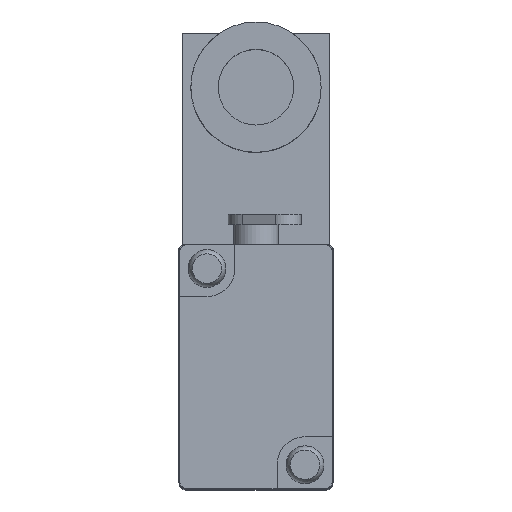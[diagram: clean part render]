
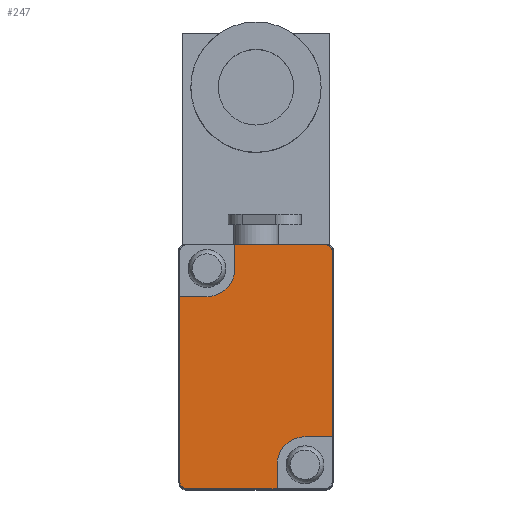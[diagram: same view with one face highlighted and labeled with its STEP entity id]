
A CAD part, top view. The second image highlights one B-rep face of the part: STEP entity #247.
In plain terms, the highlighted planar face has unit normal (0, 0, 1).
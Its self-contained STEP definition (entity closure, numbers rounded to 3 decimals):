
#247 = ADVANCED_FACE( '', ( #576 ), #577, .T. );
#576 = FACE_OUTER_BOUND( '', #979, .T. );
#577 = PLANE( '', #980 );
#979 = EDGE_LOOP( '', ( #1619, #1620, #1621, #1622, #1623, #1624, #1625, #1626, #1627, #1628, #1629, #1630 ) );
#980 = AXIS2_PLACEMENT_3D( '', #1631, #1632, #1633 );
#1619 = ORIENTED_EDGE( '', *, *, #2315, .F. );
#1620 = ORIENTED_EDGE( '', *, *, #2357, .T. );
#1621 = ORIENTED_EDGE( '', *, *, #2358, .T. );
#1622 = ORIENTED_EDGE( '', *, *, #2359, .T. );
#1623 = ORIENTED_EDGE( '', *, *, #2360, .F. );
#1624 = ORIENTED_EDGE( '', *, *, #2361, .F. );
#1625 = ORIENTED_EDGE( '', *, *, #2362, .F. );
#1626 = ORIENTED_EDGE( '', *, *, #2363, .T. );
#1627 = ORIENTED_EDGE( '', *, *, #2364, .T. );
#1628 = ORIENTED_EDGE( '', *, *, #2365, .T. );
#1629 = ORIENTED_EDGE( '', *, *, #2168, .F. );
#1630 = ORIENTED_EDGE( '', *, *, #2215, .F. );
#1631 = CARTESIAN_POINT( '', ( -9.9, -16.4, 60. ) );
#1632 = DIRECTION( '', ( 0., 0., 1. ) );
#1633 = DIRECTION( '', ( 1., 0., 0. ) );
#2168 = EDGE_CURVE( '', #2552, #2554, #2555, .T. );
#2215 = EDGE_CURVE( '', #2632, #2552, #2633, .T. );
#2315 = EDGE_CURVE( '', #2792, #2632, #2793, .T. );
#2357 = EDGE_CURVE( '', #2792, #2855, #2856, .T. );
#2358 = EDGE_CURVE( '', #2855, #2857, #2858, .T. );
#2359 = EDGE_CURVE( '', #2857, #2859, #2860, .T. );
#2360 = EDGE_CURVE( '', #2861, #2859, #2862, .T. );
#2361 = EDGE_CURVE( '', #2863, #2861, #2864, .T. );
#2362 = EDGE_CURVE( '', #2865, #2863, #2866, .T. );
#2363 = EDGE_CURVE( '', #2865, #2867, #2868, .T. );
#2364 = EDGE_CURVE( '', #2867, #2869, #2870, .T. );
#2365 = EDGE_CURVE( '', #2869, #2554, #2871, .T. );
#2552 = VERTEX_POINT( '', #3105 );
#2554 = VERTEX_POINT( '', #3108 );
#2555 = LINE( '', #3109, #3110 );
#2632 = VERTEX_POINT( '', #3204 );
#2633 = CIRCLE( '', #3205, 4. );
#2792 = VERTEX_POINT( '', #3414 );
#2793 = LINE( '', #3415, #3416 );
#2855 = VERTEX_POINT( '', #3520 );
#2856 = LINE( '', #3521, #3522 );
#2857 = VERTEX_POINT( '', #3523 );
#2858 = CIRCLE( '', #3524, 1. );
#2859 = VERTEX_POINT( '', #3525 );
#2860 = LINE( '', #3526, #3527 );
#2861 = VERTEX_POINT( '', #3528 );
#2862 = LINE( '', #3529, #3530 );
#2863 = VERTEX_POINT( '', #3531 );
#2864 = CIRCLE( '', #3532, 4. );
#2865 = VERTEX_POINT( '', #3533 );
#2866 = LINE( '', #3534, #3535 );
#2867 = VERTEX_POINT( '', #3536 );
#2868 = LINE( '', #3537, #3538 );
#2869 = VERTEX_POINT( '', #3539 );
#2870 = CIRCLE( '', #3540, 1. );
#2871 = LINE( '', #3541, #3542 );
#3105 = CARTESIAN_POINT( '', ( -3., 14., 60. ) );
#3108 = CARTESIAN_POINT( '', ( -3., 17.4, 60. ) );
#3109 = CARTESIAN_POINT( '', ( -3., 14., 60. ) );
#3110 = VECTOR( '', #3798, 1000. );
#3204 = CARTESIAN_POINT( '', ( -7., 10., 60. ) );
#3205 = AXIS2_PLACEMENT_3D( '', #3867, #3868, #3869 );
#3414 = CARTESIAN_POINT( '', ( -10.9, 10., 60. ) );
#3415 = CARTESIAN_POINT( '', ( -9.9, 10., 60. ) );
#3416 = VECTOR( '', #4009, 1000. );
#3520 = CARTESIAN_POINT( '', ( -10.9, -16.4, 60. ) );
#3521 = CARTESIAN_POINT( '', ( -10.9, 16.4, 60. ) );
#3522 = VECTOR( '', #4055, 1000. );
#3523 = CARTESIAN_POINT( '', ( -9.9, -17.4, 60. ) );
#3524 = AXIS2_PLACEMENT_3D( '', #4056, #4057, #4058 );
#3525 = CARTESIAN_POINT( '', ( 3., -17.4, 60. ) );
#3526 = CARTESIAN_POINT( '', ( -9.9, -17.4, 60. ) );
#3527 = VECTOR( '', #4059, 1000. );
#3528 = CARTESIAN_POINT( '', ( 3., -14., 60. ) );
#3529 = CARTESIAN_POINT( '', ( 3., -14., 60. ) );
#3530 = VECTOR( '', #4060, 1000. );
#3531 = CARTESIAN_POINT( '', ( 7., -10., 60. ) );
#3532 = AXIS2_PLACEMENT_3D( '', #4061, #4062, #4063 );
#3533 = CARTESIAN_POINT( '', ( 10.9, -10., 60. ) );
#3534 = CARTESIAN_POINT( '', ( -9.9, -10., 60. ) );
#3535 = VECTOR( '', #4064, 1000. );
#3536 = CARTESIAN_POINT( '', ( 10.9, 16.4, 60. ) );
#3537 = CARTESIAN_POINT( '', ( 10.9, -16.4, 60. ) );
#3538 = VECTOR( '', #4065, 1000. );
#3539 = CARTESIAN_POINT( '', ( 9.9, 17.4, 60. ) );
#3540 = AXIS2_PLACEMENT_3D( '', #4066, #4067, #4068 );
#3541 = CARTESIAN_POINT( '', ( 9.9, 17.4, 60. ) );
#3542 = VECTOR( '', #4069, 1000. );
#3798 = DIRECTION( '', ( 0., 1., 0. ) );
#3867 = CARTESIAN_POINT( '', ( -7., 14., 60. ) );
#3868 = DIRECTION( '', ( 0., 0., 1. ) );
#3869 = DIRECTION( '', ( 1., 0., 0. ) );
#4009 = DIRECTION( '', ( 1., 0., 0. ) );
#4055 = DIRECTION( '', ( 0., -1., 0. ) );
#4056 = CARTESIAN_POINT( '', ( -9.9, -16.4, 60. ) );
#4057 = DIRECTION( '', ( 0., 0., 1. ) );
#4058 = DIRECTION( '', ( 1., 0., 0. ) );
#4059 = DIRECTION( '', ( 1., 0., 0. ) );
#4060 = DIRECTION( '', ( 0., -1., 0. ) );
#4061 = CARTESIAN_POINT( '', ( 7., -14., 60. ) );
#4062 = DIRECTION( '', ( 0., 0., 1. ) );
#4063 = DIRECTION( '', ( 1., 0., 0. ) );
#4064 = DIRECTION( '', ( -1., 0., 0. ) );
#4065 = DIRECTION( '', ( 0., 1., 0. ) );
#4066 = CARTESIAN_POINT( '', ( 9.9, 16.4, 60. ) );
#4067 = DIRECTION( '', ( 0., 0., 1. ) );
#4068 = DIRECTION( '', ( 1., 0., 0. ) );
#4069 = DIRECTION( '', ( -1., 0., 0. ) );
